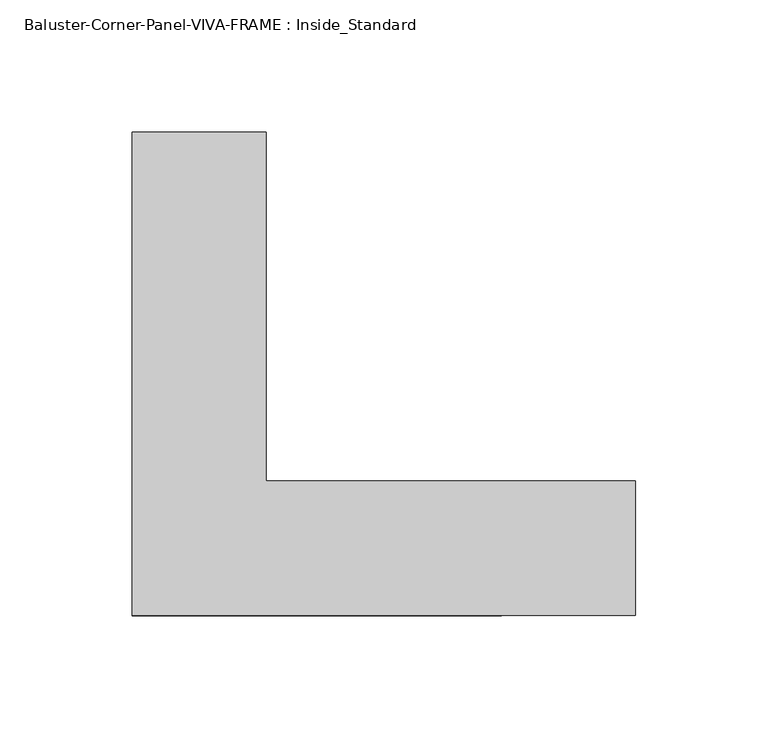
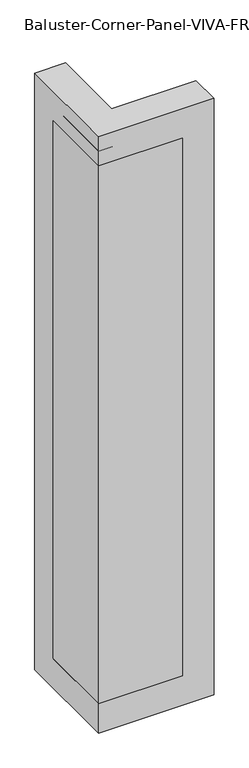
"""IFC4 building model written with IfcOpenShell, lengths in millimetres: railing geometry, Baluster-Corner-Panel-VIVA-FRAME : Inside_Standard."""

from ifc_helpers import new_model, si_unit, frame, origin, place, context, project, spatial, polyline, outline, extrude, faceted_brep, source, transform, mapped, element, save


def baluster_corner_panel_viva_frame_inside_standard_051fbde0(model_context):
    return source(origin(), model_context, "Body", "SolidModel", [
        faceted_brep([(0.0, 182.88, 76.4512), (0.0, 182.88, 1117.6), (50.8, 182.88, 1117.6), (50.8, 182.88, 76.4512), (0.0, 0.0, 127.2512), (0.0, 132.08, 127.2512), (0.0, 132.08, 1066.8), (0.0, 0.0, 1066.8), (0.0, 0.0, 1117.6), (0.0, 0.0, 76.4512), (190.5, 0.0, 76.4512), (190.5, 0.0, 1117.6), (139.7, 0.0, 1066.8), (139.7, 0.0, 127.2512), (190.5, 50.8, 76.4512), (190.5, 50.8, 1117.6), (50.8, 50.8, 1117.6), (50.8, 50.8, 1111.6056), (50.8, 176.8856, 1111.6056), (50.8, 176.8856, 82.4456), (50.8, 50.8, 82.4456), (50.8, 50.8, 76.4512), (184.5056, 50.8, 1111.6056), (184.5056, 19.9898, 1111.6056), (19.9898, 19.9898, 1111.6056), (19.9898, 176.8856, 1111.6056), (19.9898, 19.9898, 1066.8), (19.9898, 132.08, 1066.8), (19.9898, 132.08, 127.2512), (19.9898, 19.9898, 127.2512), (19.9898, 19.9898, 82.4456), (19.9898, 176.8856, 82.4456), (139.7, 19.9898, 1066.8), (184.5056, 50.8, 82.4456), (184.5056, 19.9898, 82.4456), (139.7, 19.9898, 127.2512)], [[[0, 1, 2, 3]], [[4, 5, 6, 7, 8, 1, 0, 9]], [[4, 9, 10, 11, 8, 7, 12, 13]], [[14, 15, 11, 10]], [[16, 17, 18, 19, 20, 21, 3, 2]], [[17, 22, 23, 24, 25, 18]], [[24, 26, 27, 28, 29, 30, 31, 25]], [[12, 7, 6, 27, 26, 32]], [[2, 1, 8, 11, 15, 16]], [[17, 16, 15, 14, 21, 20, 33, 22]], [[26, 24, 23, 34, 30, 29, 35, 32]], [[21, 14, 10, 9, 0, 3]], [[34, 23, 22, 33]], [[12, 32, 35, 13]], [[27, 6, 5, 28]], [[18, 25, 31, 19]], [[4, 13, 35, 29, 28, 5]], [[20, 19, 31, 30, 34, 33]]]),
        extrude(outline(polyline([(165.5, 0.0), (0.0, 0.0), (0.0, 157.88), (3.0, 157.88), (3.0, 3.0), (165.5, 3.0), (165.5, 0.0)])), frame((0.0, 0.0, 101.4512), z_axis=(0.0, 0.0, 1.0), x_axis=(1.0, 0.0, 0.0)), (0.0, 0.0, 1.0), 991.1488),
    ])


if __name__ == "__main__":
    model = new_model("IFC4")
    model_context = context("Model", 3, world=origin())
    ifc_project = project(units=[si_unit("LENGTHUNIT", "METRE", prefix="MILLI")], contexts=[model_context])
    site = spatial("IfcSite", under=ifc_project)
    building = spatial("IfcBuilding", under=site)
    placement = place(None, origin())
    baluster_corner_panel_viva_frame_inside_standard_shape = baluster_corner_panel_viva_frame_inside_standard_051fbde0(model_context)
    element("IfcRailing", 1, ObjectType="Baluster-Corner-Panel-VIVA-FRAME : Inside_Standard", at=placement, inside=building, context=model_context, shape_type="MappedRepresentation", body=[
        mapped(baluster_corner_panel_viva_frame_inside_standard_shape, transform((0.0, 0.0, 0.0), x_axis=(1.0, 0.0, 0.0), y_axis=(0.0, 1.0, 0.0), z_axis=(0.0, 0.0, 1.0))),
    ])
    save(model, "model.ifc")
